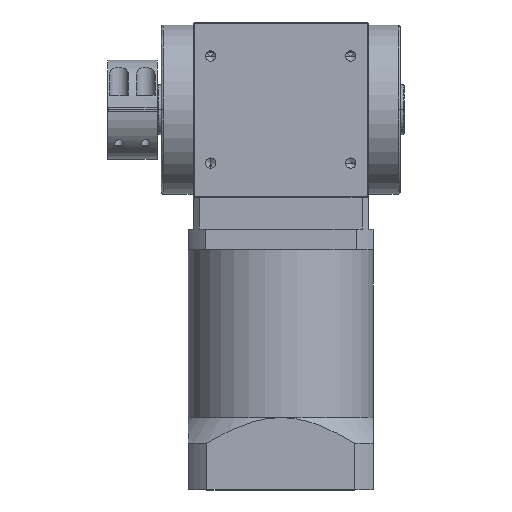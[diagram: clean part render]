
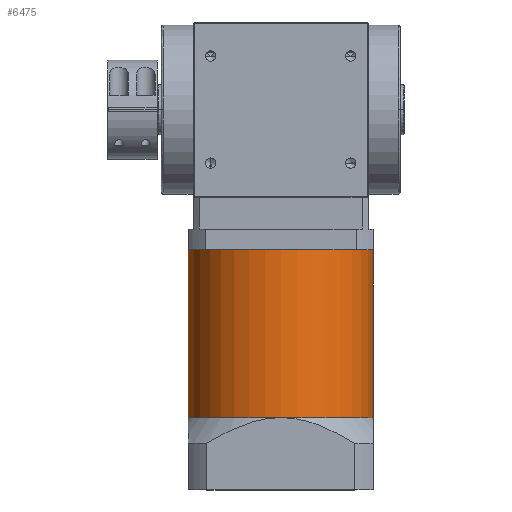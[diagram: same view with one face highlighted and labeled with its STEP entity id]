
A CAD part, top view. The second image highlights one B-rep face of the part: STEP entity #6475.
In plain terms, the highlighted cylindrical face has radius 45 mm (diameter 90 mm), a partial arc.
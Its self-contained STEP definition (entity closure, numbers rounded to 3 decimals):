
#758 = FACE_OUTER_BOUND ( 'NONE', #2381, .T. ) ;
#2326 = VERTEX_POINT ( 'NONE', #6481 ) ;
#2381 = EDGE_LOOP ( 'NONE', ( #11507, #11799, #2550, #10633, #7273, #2512 ) ) ;
#2512 = ORIENTED_EDGE ( 'NONE', *, *, #10383, .T. ) ;
#2537 = VERTEX_POINT ( 'NONE', #4324 ) ;
#2550 = ORIENTED_EDGE ( 'NONE', *, *, #10287, .T. ) ;
#3993 = VERTEX_POINT ( 'NONE', #9196 ) ;
#4239 = VERTEX_POINT ( 'NONE', #7985 ) ;
#4324 = CARTESIAN_POINT ( 'NONE',  ( 45., -68., 0. ) ) ;
#4332 = AXIS2_PLACEMENT_3D ( 'NONE', #6848, #6842, #6829 ) ;
#4964 = AXIS2_PLACEMENT_3D ( 'NONE', #6459, #6448, #6442 ) ;
#5117 = DIRECTION ( 'NONE',  ( -1., 0., 0. ) ) ;
#5119 = DIRECTION ( 'NONE',  ( 0., 1., 0. ) ) ;
#5143 = CARTESIAN_POINT ( 'NONE',  ( 0., -149.5, 0. ) ) ;
#5197 = AXIS2_PLACEMENT_3D ( 'NONE', #6391, #6374, #6370 ) ;
#5431 = DIRECTION ( 'NONE',  ( 0., 1., 0. ) ) ;
#5460 = CARTESIAN_POINT ( 'NONE',  ( -45., -149.5, 0. ) ) ;
#6370 = DIRECTION ( 'NONE',  ( -1., 0., 0. ) ) ;
#6374 = DIRECTION ( 'NONE',  ( 0., -1., 0. ) ) ;
#6391 = CARTESIAN_POINT ( 'NONE',  ( 0., -68., 0. ) ) ;
#6442 = DIRECTION ( 'NONE',  ( -1., 0., 0. ) ) ;
#6448 = DIRECTION ( 'NONE',  ( 0., -1., 0. ) ) ;
#6459 = CARTESIAN_POINT ( 'NONE',  ( 0., -68., 0. ) ) ;
#6475 = ADVANCED_FACE ( 'NONE', ( #758 ), #9451, .T. ) ;
#6481 = CARTESIAN_POINT ( 'NONE',  ( -45., -68., 0. ) ) ;
#6582 = CARTESIAN_POINT ( 'NONE',  ( 0., -149.5, 0. ) ) ;
#6644 = DIRECTION ( 'NONE',  ( 0., 1., 0. ) ) ;
#6829 = DIRECTION ( 'NONE',  ( -1., 0., 0. ) ) ;
#6842 = DIRECTION ( 'NONE',  ( 0., 1., 0. ) ) ;
#6848 = CARTESIAN_POINT ( 'NONE',  ( 0., -149.5, 0. ) ) ;
#6983 = DIRECTION ( 'NONE',  ( -1., 0., 0. ) ) ;
#7173 = DIRECTION ( 'NONE',  ( 0., 1., 0. ) ) ;
#7192 = CARTESIAN_POINT ( 'NONE',  ( 45., -149.5, 0. ) ) ;
#7244 = AXIS2_PLACEMENT_3D ( 'NONE', #5143, #5119, #5117 ) ;
#7273 = ORIENTED_EDGE ( 'NONE', *, *, #10369, .F. ) ;
#7616 = VERTEX_POINT ( 'NONE', #8671 ) ;
#7985 = CARTESIAN_POINT ( 'NONE',  ( 0., -149.5, 45. ) ) ;
#8671 = CARTESIAN_POINT ( 'NONE',  ( -45., -149.5, 0. ) ) ;
#8874 = VERTEX_POINT ( 'NONE', #12093 ) ;
#9018 = LINE ( 'NONE', #5460, #9099 ) ;
#9099 = VECTOR ( 'NONE', #5431, 1000. ) ;
#9196 = CARTESIAN_POINT ( 'NONE',  ( 45., -149.5, 0. ) ) ;
#9451 = CYLINDRICAL_SURFACE ( 'NONE', #11100, 45. ) ;
#9867 = VECTOR ( 'NONE', #7173, 1000. ) ;
#9913 = LINE ( 'NONE', #7192, #9867 ) ;
#10198 = EDGE_CURVE ( 'NONE', #3993, #2537, #9913, .T. ) ;
#10217 = CIRCLE ( 'NONE', #4332, 45. ) ;
#10225 = EDGE_CURVE ( 'NONE', #4239, #3993, #10217, .T. ) ;
#10287 = EDGE_CURVE ( 'NONE', #2537, #8874, #11032, .T. ) ;
#10301 = EDGE_CURVE ( 'NONE', #8874, #2326, #10979, .T. ) ;
#10369 = EDGE_CURVE ( 'NONE', #7616, #2326, #9018, .T. ) ;
#10383 = EDGE_CURVE ( 'NONE', #7616, #4239, #12081, .T. ) ;
#10633 = ORIENTED_EDGE ( 'NONE', *, *, #10301, .T. ) ;
#10979 = CIRCLE ( 'NONE', #5197, 45. ) ;
#11032 = CIRCLE ( 'NONE', #4964, 45. ) ;
#11100 = AXIS2_PLACEMENT_3D ( 'NONE', #6582, #6644, #6983 ) ;
#11507 = ORIENTED_EDGE ( 'NONE', *, *, #10225, .T. ) ;
#11799 = ORIENTED_EDGE ( 'NONE', *, *, #10198, .T. ) ;
#12081 = CIRCLE ( 'NONE', #7244, 45. ) ;
#12093 = CARTESIAN_POINT ( 'NONE',  ( 0., -68., 45. ) ) ;
